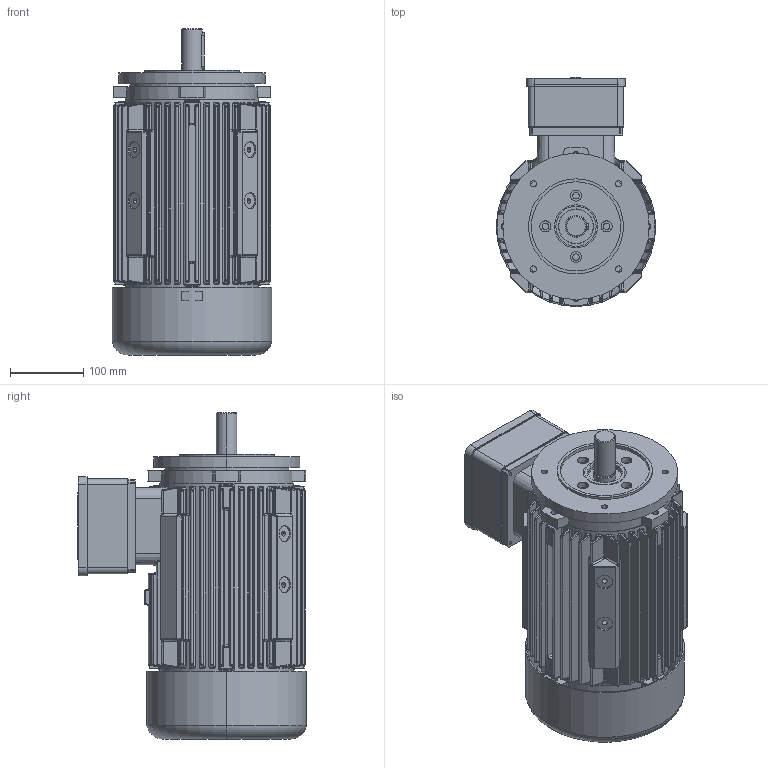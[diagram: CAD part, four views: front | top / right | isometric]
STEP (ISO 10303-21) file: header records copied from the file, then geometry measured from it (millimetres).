
FILE_DESCRIPTION (( 'STEP AP214' ), '1' );
FILE_NAME ('20.18455-D 7AT 112 B14_large Exde STANDK.STEP', '2018-05-11T08:15:03', ( '' ), ( '' ), 'SwSTEP 2.0', 'SolidWorks 2017', '' );
FILE_SCHEMA (( 'AUTOMOTIVE_DESIGN' ));
Length unit declared in the file: millimetre
Products named in the file (1): 20.18455-D 7AT 112 B14_large Exde STANDK
Bounding box: 218 x 312.8 x 446 mm (x, y, z)
Volume: 4824691.3 mm3; surface area: 1292113.2 mm2
Topology: 10 solids, 10 shells, 2933 faces, 7123 edges, 4113 vertices
Faces by surface type: cylinder 1052, bspline 952, plane 598, sphere 126, torus 105, cone 100
Entity records: 149329 total; most frequent: CARTESIAN_POINT 58156, ORIENTED_EDGE 13774, DIRECTION 11140, EDGE_CURVE 6887, AXIS2_PLACEMENT_3D 4392, VERTEX_POINT 4103, EDGE_LOOP 3142, FACE_OUTER_BOUND 2933
